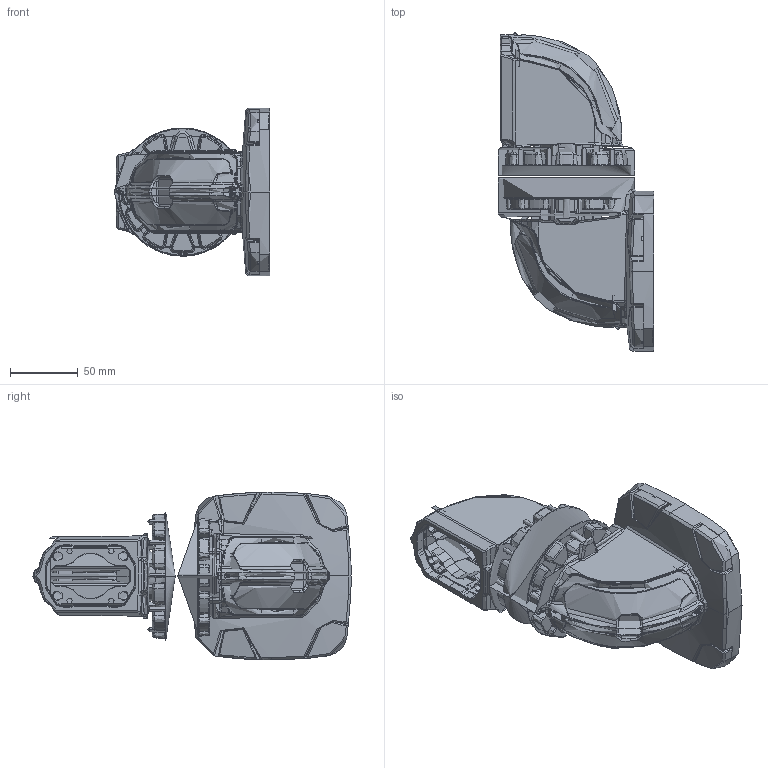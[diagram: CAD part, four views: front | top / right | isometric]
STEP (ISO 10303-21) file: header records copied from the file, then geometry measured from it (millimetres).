
FILE_DESCRIPTION (( 'STEP AP203' ), '1' );
FILE_NAME ('TP.045.8234.STEP', '2026-09-30T08:20:03', ( '' ), ( '' ), 'SwSTEP 2.0', 'SolidWorks 2015', '' );
FILE_SCHEMA (( 'CONFIG_CONTROL_DESIGN' ));
Products named in the file (12): TP.45.0674 (3); AynalamaTP.45.0674 (3); TP.45.0674 (1_2); TP.045.800; TP.045.8234; TP.045.200; Part3^TP.045.800; AynalamaTP.45.0674 (1_2); TP.045.Kapak; kapak vida
Assembly tree (16 placements, depth 3):
  TP.045.8234
    TP.045.800
      TP.045.800
      TP.045.Kapak
      TP.45.0674 (1_2)
      TP.45.0674 (3)
      AynalamaTP.45.0674 (1_2)
      AynalamaTP.45.0674 (3)
    TP.045.200
      TP.045.200
      TP.045.Kapak
      kapak vida  x2
    kapak vida  x4
  Part3^TP.045.800
Bounding box: 115.36 x 235.7 x 124.28 mm (x, y, z)
Topology: 12 solids, 26 shells, 6019 faces, 14614 edges, 8639 vertices
Faces by surface type: bspline 3746, cylinder 732, plane 688, torus 447, cone 334, sphere 72
Entity records: 326592 total; most frequent: CARTESIAN_POINT 233812, ORIENTED_EDGE 24042, EDGE_CURVE 12021, DIRECTION 9903, B_SPLINE_CURVE_WITH_KNOTS 7829, VERTEX_POINT 7138, EDGE_LOOP 5093, ADVANCED_FACE 4959
